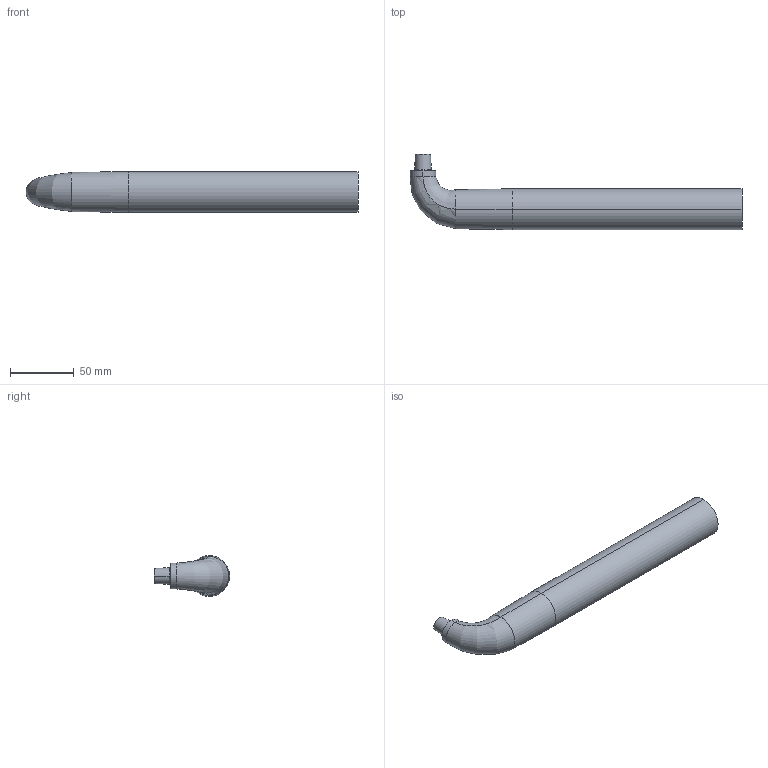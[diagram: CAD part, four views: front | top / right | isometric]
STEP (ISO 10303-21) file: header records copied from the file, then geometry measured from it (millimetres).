
FILE_DESCRIPTION( (''), '2;1');
FILE_NAME ('SY-2080-19_TB-32250-90-C2.stp','2022-04-09T23:46:36',(''),(''),'spGate 18.9.3 (****-****-****-****)','','');
FILE_SCHEMA (('AUTOMOTIVE_DESIGN'));
Length unit declared in the file: millimetre
Products named in the file (21): Assembly; SY-2080-19_TB-32250-90-C2-prt0; SY-2080-19_TB-32250-90-C2-prt1; SY-2080-19_TB-32250-90-C2-prt2; SY-2080-19_TB-32250-90-C2-prt3; SY-2080-19_TB-32250-90-C2-prt4; SY-2080-19_TB-32250-90-C2-prt5; SY-2080-19_TB-32250-90-C2-prt6; SY-2080-19_TB-32250-90-C2-prt7; SY-2080-19_TB-32250-90-C2-prt8; SY-2080-19_TB-32250-90-C2-prt9; SY-2080-19_TB-32250-90-C2-prt10; SY-2080-19_TB-32250-90-C2-prt11; SY-2080-19_TB-32250-90-C2-prt12; SY-2080-19_TB-32250-90-C2-prt13; SY-2080-19_TB-32250-90-C2-prt14; SY-2080-19_TB-32250-90-C2-prt15; SY-2080-19_TB-32250-90-C2-prt16; SY-2080-19_TB-32250-90-C2-prt17; SY-2080-19_TB-32250-90-C2-prt18; SY-2080-19_TB-32250-90-C2-prt19
Assembly tree (20 placements, depth 2):
  Assembly
    SY-2080-19_TB-32250-90-C2-prt0
    SY-2080-19_TB-32250-90-C2-prt1
    SY-2080-19_TB-32250-90-C2-prt2
    SY-2080-19_TB-32250-90-C2-prt3
    SY-2080-19_TB-32250-90-C2-prt4
    SY-2080-19_TB-32250-90-C2-prt5
    SY-2080-19_TB-32250-90-C2-prt6
    SY-2080-19_TB-32250-90-C2-prt7
    SY-2080-19_TB-32250-90-C2-prt8
    SY-2080-19_TB-32250-90-C2-prt9
    SY-2080-19_TB-32250-90-C2-prt10
    SY-2080-19_TB-32250-90-C2-prt11
    SY-2080-19_TB-32250-90-C2-prt12
    SY-2080-19_TB-32250-90-C2-prt13
    SY-2080-19_TB-32250-90-C2-prt14
    SY-2080-19_TB-32250-90-C2-prt15
    SY-2080-19_TB-32250-90-C2-prt16
    SY-2080-19_TB-32250-90-C2-prt17
    SY-2080-19_TB-32250-90-C2-prt18
    SY-2080-19_TB-32250-90-C2-prt19
Bounding box: 260.15 x 59 x 32 mm (x, y, z)
Volume: 182749 mm3; surface area: 35695.9 mm2
Topology: 1 solids, 1 shells, 40 faces, 102 edges, 88 vertices
Faces by surface type: bspline 18, cylinder 12, plane 10
Entity records: 3543 total; most frequent: CARTESIAN_POINT 1441, DIRECTION 243, ORIENTED_EDGE 164, COLOUR_RGB 142, PRESENTATION_STYLE_ASSIGNMENT 142, STYLED_ITEM 142, AXIS2_PLACEMENT_3D 112, DRAUGHTING_PRE_DEFINED_CURVE_FONT 101
